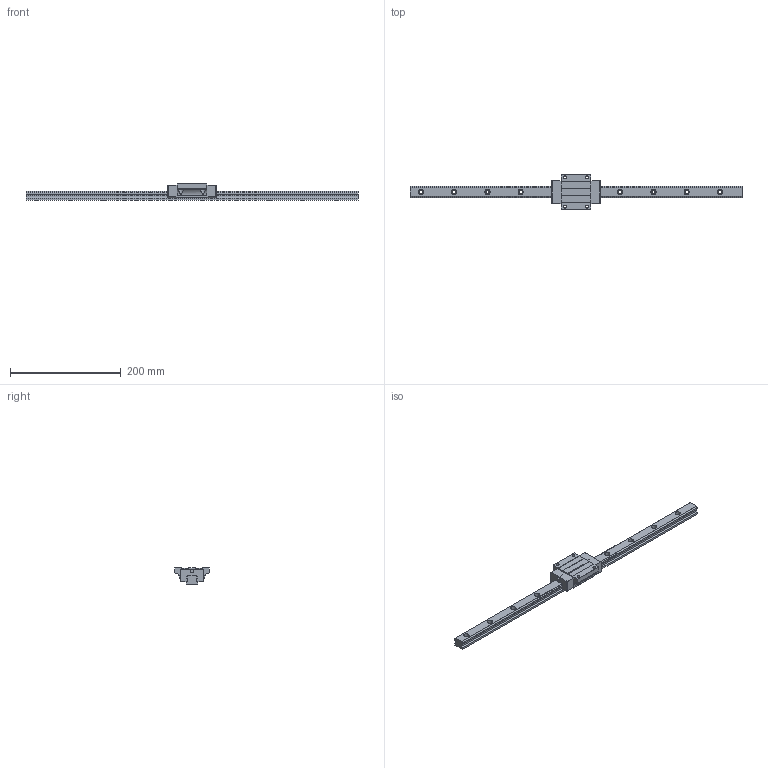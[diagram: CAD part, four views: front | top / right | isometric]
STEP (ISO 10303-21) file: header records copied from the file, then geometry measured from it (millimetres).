
FILE_DESCRIPTION (( 'STEP AP203' ), '1' );
FILE_NAME ('TRH20FN-WW.STEP', '2024-05-07T08:58:46', ( '' ), ( '' ), 'SwSTEP 2.0', 'SolidWorks 2022', '' );
FILE_SCHEMA (( 'CONFIG_CONTROL_DESIGN' ));
Length unit declared in the file: millimetre
Products named in the file (1): TRH20FN-WW
Bounding box: 600 x 63 x 30 mm (x, y, z)
Volume: 248045 mm3; surface area: 68129.4 mm2
Topology: 2 solids, 2 shells, 210 faces, 574 edges, 376 vertices
Faces by surface type: cylinder 118, plane 88, sphere 4
Entity records: 7410 total; most frequent: CARTESIAN_POINT 1820, DIRECTION 1178, ORIENTED_EDGE 1140, EDGE_CURVE 570, AXIS2_PLACEMENT_3D 423, VERTEX_POINT 376, VECTOR 332, LINE 332
